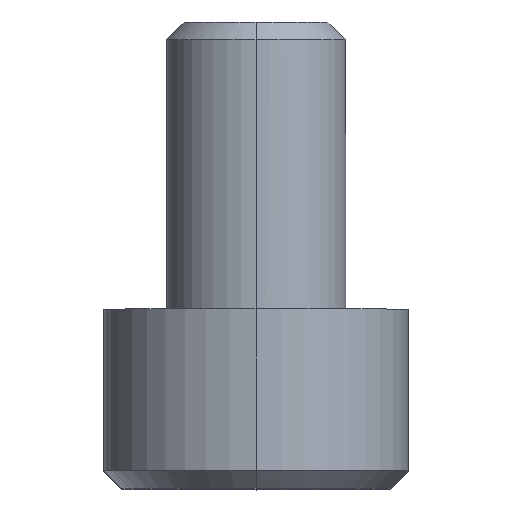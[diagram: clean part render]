
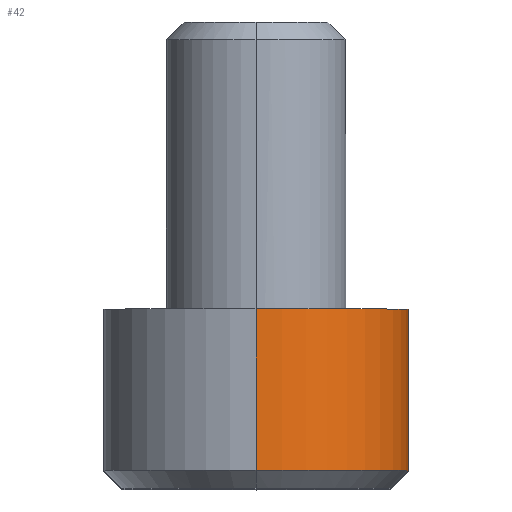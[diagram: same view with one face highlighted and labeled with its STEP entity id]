
A CAD part, top view. The second image highlights one B-rep face of the part: STEP entity #42.
In plain terms, the highlighted free-form (B-spline) face has degree [1, 2] with [2, 9] control points.
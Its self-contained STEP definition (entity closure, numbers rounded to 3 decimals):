
#42=ADVANCED_FACE('',(#92),#1480,.T.);
#92=FACE_OUTER_BOUND('',#142,.T.);
#142=EDGE_LOOP('',(#199,#200,#201,#202));
#199=ORIENTED_EDGE('',*,*,#1205,.F.);
#200=ORIENTED_EDGE('',*,*,#1207,.T.);
#201=ORIENTED_EDGE('',*,*,#1208,.T.);
#202=ORIENTED_EDGE('',*,*,#1209,.T.);
#413=PCURVE('',#1479,#629);
#415=PCURVE('',#1480,#631);
#416=PCURVE('',#1480,#632);
#417=PCURVE('',#1480,#633);
#418=PCURVE('',#1480,#634);
#500=PCURVE('',#1462,#716);
#504=PCURVE('',#1487,#720);
#506=PCURVE('',#1487,#722);
#629=DEFINITIONAL_REPRESENTATION('',(#846),#2838);
#631=DEFINITIONAL_REPRESENTATION('',(#849),#2838);
#632=DEFINITIONAL_REPRESENTATION('',(#851),#2838);
#633=DEFINITIONAL_REPRESENTATION('',(#852),#2838);
#634=DEFINITIONAL_REPRESENTATION('',(#854),#2838);
#716=DEFINITIONAL_REPRESENTATION('',(#1340),#2838);
#720=DEFINITIONAL_REPRESENTATION('',(#956),#2838);
#722=DEFINITIONAL_REPRESENTATION('',(#958),#2838);
#846=B_SPLINE_CURVE_WITH_KNOTS('',1,(#1826,#1827),.UNSPECIFIED.,.F.,.F.,
(2,2),(-13.352,0.),.UNSPECIFIED.);
#849=B_SPLINE_CURVE_WITH_KNOTS('',1,(#1832,#1833),.UNSPECIFIED.,.F.,.F.,
(2,2),(-13.352,0.),.UNSPECIFIED.);
#850=B_SPLINE_CURVE_WITH_KNOTS('',1,(#1834,#1835),.UNSPECIFIED.,.F.,.F.,
(2,2),(0.,4.5),.UNSPECIFIED.);
#851=B_SPLINE_CURVE_WITH_KNOTS('',1,(#1836,#1837),.UNSPECIFIED.,.F.,.F.,
(2,2),(0.,4.5),.UNSPECIFIED.);
#852=B_SPLINE_CURVE_WITH_KNOTS('',1,(#1843,#1844),.UNSPECIFIED.,.F.,.F.,
(2,2),(-13.352,0.),.UNSPECIFIED.);
#853=B_SPLINE_CURVE_WITH_KNOTS('',1,(#1845,#1846),.UNSPECIFIED.,.F.,.F.,
(2,2),(0.,4.5),.UNSPECIFIED.);
#854=B_SPLINE_CURVE_WITH_KNOTS('',1,(#1847,#1848),.UNSPECIFIED.,.F.,.F.,
(2,2),(0.,4.5),.UNSPECIFIED.);
#956=B_SPLINE_CURVE_WITH_KNOTS('',1,(#2164,#2165),.UNSPECIFIED.,.F.,.F.,
(2,2),(0.,4.5),.UNSPECIFIED.);
#958=B_SPLINE_CURVE_WITH_KNOTS('',1,(#2173,#2174),.UNSPECIFIED.,.F.,.F.,
(2,2),(0.,4.5),.UNSPECIFIED.);
#1097=SURFACE_CURVE('',#1312,(#413,#415),.PCURVE_S1.);
#1099=SURFACE_CURVE('',#850,(#416,#504),.PCURVE_S1.);
#1100=SURFACE_CURVE('',#1313,(#417,#500),.PCURVE_S1.);
#1101=SURFACE_CURVE('',#853,(#418,#506),.PCURVE_S1.);
#1205=EDGE_CURVE('',#1385,#1384,#1097,.T.);
#1207=EDGE_CURVE('',#1385,#1388,#1099,.T.);
#1208=EDGE_CURVE('',#1388,#1387,#1100,.T.);
#1209=EDGE_CURVE('',#1387,#1384,#1101,.T.);
#1312=(
BOUNDED_CURVE()
B_SPLINE_CURVE(2,(#1821,#1822,#1823,#1824,#1825),.UNSPECIFIED.,.F.,.F.)
B_SPLINE_CURVE_WITH_KNOTS((3,2,3),(-13.352,-6.676,0.),
 .UNSPECIFIED.)
CURVE()
GEOMETRIC_REPRESENTATION_ITEM()
RATIONAL_B_SPLINE_CURVE((1.,0.707,1.,0.707,1.))
REPRESENTATION_ITEM('')
);
#1313=(
BOUNDED_CURVE()
B_SPLINE_CURVE(2,(#1838,#1839,#1840,#1841,#1842),.UNSPECIFIED.,.F.,.F.)
B_SPLINE_CURVE_WITH_KNOTS((3,2,3),(-13.352,-6.676,0.),
 .UNSPECIFIED.)
CURVE()
GEOMETRIC_REPRESENTATION_ITEM()
RATIONAL_B_SPLINE_CURVE((1.,0.707,1.,0.707,1.))
REPRESENTATION_ITEM('')
);
#1340=(
BOUNDED_CURVE()
B_SPLINE_CURVE(2,(#2147,#2148,#2149,#2150,#2151),.UNSPECIFIED.,.F.,.F.)
B_SPLINE_CURVE_WITH_KNOTS((3,2,3),(-13.352,-6.676,0.),
 .UNSPECIFIED.)
CURVE()
GEOMETRIC_REPRESENTATION_ITEM()
RATIONAL_B_SPLINE_CURVE((1.,0.707,1.,0.707,1.))
REPRESENTATION_ITEM('')
);
#1384=VERTEX_POINT('',#1778);
#1385=VERTEX_POINT('',#1779);
#1387=VERTEX_POINT('',#1781);
#1388=VERTEX_POINT('',#1782);
#1462=PLANE('',#1532);
#1479=(
BOUNDED_SURFACE()
B_SPLINE_SURFACE(1,2,((#1582,#1583,#1584,#1585,#1586,#1587,#1588,#1589,#1590),
(#1591,#1592,#1593,#1594,#1595,#1596,#1597,#1598,#1599)),.UNSPECIFIED.,.F.,
 .F.,.F.)
B_SPLINE_SURFACE_WITH_KNOTS((2,2),(3,2,2,2,3),(0.,6.613),(0.,
1.571,3.142,4.712,6.283),
 .UNSPECIFIED.)
GEOMETRIC_REPRESENTATION_ITEM()
RATIONAL_B_SPLINE_SURFACE(((1.,0.707,1.,0.707,1.,
0.707,1.,0.707,1.),(1.,0.707,1.,0.707,
1.,0.707,1.,0.707,1.)))
REPRESENTATION_ITEM('')
SURFACE()
);
#1480=(
BOUNDED_SURFACE()
B_SPLINE_SURFACE(1,2,((#1600,#1601,#1602,#1603,#1604,#1605,#1606,#1607,#1608),
(#1609,#1610,#1611,#1612,#1613,#1614,#1615,#1616,#1617)),.UNSPECIFIED.,.F.,
 .F.,.F.)
B_SPLINE_SURFACE_WITH_KNOTS((2,2),(3,2,2,2,3),(0.,5.402),(0.,1.571,
3.142,4.712,6.283),.UNSPECIFIED.)
GEOMETRIC_REPRESENTATION_ITEM()
RATIONAL_B_SPLINE_SURFACE(((1.,0.707,1.,0.707,1.,
0.707,1.,0.707,1.),(1.,0.707,1.,0.707,
1.,0.707,1.,0.707,1.)))
REPRESENTATION_ITEM('')
SURFACE()
);
#1487=(
BOUNDED_SURFACE()
B_SPLINE_SURFACE(1,2,((#1740,#1741,#1742,#1743,#1744,#1745,#1746,#1747,#1748),
(#1749,#1750,#1751,#1752,#1753,#1754,#1755,#1756,#1757)),.UNSPECIFIED.,.F.,
 .F.,.F.)
B_SPLINE_SURFACE_WITH_KNOTS((2,2),(3,2,2,2,3),(0.,5.402),(0.,1.571,
3.142,4.712,6.283),.UNSPECIFIED.)
GEOMETRIC_REPRESENTATION_ITEM()
RATIONAL_B_SPLINE_SURFACE(((1.,0.707,1.,0.707,1.,
0.707,1.,0.707,1.),(1.,0.707,1.,0.707,
1.,0.707,1.,0.707,1.)))
REPRESENTATION_ITEM('')
SURFACE()
);
#1532=AXIS2_PLACEMENT_3D('',#1739,#1564,$);
#1564=DIRECTION('',(0.,-1.,0.));
#1582=CARTESIAN_POINT('',(686.,303.25,10.));
#1583=CARTESIAN_POINT('',(686.,303.25,10.));
#1584=CARTESIAN_POINT('',(686.,303.25,10.));
#1585=CARTESIAN_POINT('',(686.,303.25,10.));
#1586=CARTESIAN_POINT('',(686.,303.25,10.));
#1587=CARTESIAN_POINT('',(686.,303.25,10.));
#1588=CARTESIAN_POINT('',(686.,303.25,10.));
#1589=CARTESIAN_POINT('',(686.,303.25,10.));
#1590=CARTESIAN_POINT('',(686.,303.25,10.));
#1591=CARTESIAN_POINT('',(681.324,307.926,10.));
#1592=CARTESIAN_POINT('',(681.324,307.926,14.676));
#1593=CARTESIAN_POINT('',(686.,307.926,14.676));
#1594=CARTESIAN_POINT('',(690.676,307.926,14.676));
#1595=CARTESIAN_POINT('',(690.676,307.926,10.));
#1596=CARTESIAN_POINT('',(690.676,307.926,5.324));
#1597=CARTESIAN_POINT('',(686.,307.926,5.324));
#1598=CARTESIAN_POINT('',(681.324,307.926,5.324));
#1599=CARTESIAN_POINT('',(681.324,307.926,10.));
#1600=CARTESIAN_POINT('',(681.75,307.049,10.));
#1601=CARTESIAN_POINT('',(681.75,307.049,14.25));
#1602=CARTESIAN_POINT('',(686.,307.049,14.25));
#1603=CARTESIAN_POINT('',(690.25,307.049,14.25));
#1604=CARTESIAN_POINT('',(690.25,307.049,10.));
#1605=CARTESIAN_POINT('',(690.25,307.049,5.75));
#1606=CARTESIAN_POINT('',(686.,307.049,5.75));
#1607=CARTESIAN_POINT('',(681.75,307.049,5.75));
#1608=CARTESIAN_POINT('',(681.75,307.049,10.));
#1609=CARTESIAN_POINT('',(681.75,312.451,10.));
#1610=CARTESIAN_POINT('',(681.75,312.451,14.25));
#1611=CARTESIAN_POINT('',(686.,312.451,14.25));
#1612=CARTESIAN_POINT('',(690.25,312.451,14.25));
#1613=CARTESIAN_POINT('',(690.25,312.451,10.));
#1614=CARTESIAN_POINT('',(690.25,312.451,5.75));
#1615=CARTESIAN_POINT('',(686.,312.451,5.75));
#1616=CARTESIAN_POINT('',(681.75,312.451,5.75));
#1617=CARTESIAN_POINT('',(681.75,312.451,10.));
#1739=CARTESIAN_POINT('',(680.899,312.,4.899));
#1740=CARTESIAN_POINT('',(690.25,307.049,10.));
#1741=CARTESIAN_POINT('',(690.25,307.049,5.75));
#1742=CARTESIAN_POINT('',(686.,307.049,5.75));
#1743=CARTESIAN_POINT('',(681.75,307.049,5.75));
#1744=CARTESIAN_POINT('',(681.75,307.049,10.));
#1745=CARTESIAN_POINT('',(681.75,307.049,14.25));
#1746=CARTESIAN_POINT('',(686.,307.049,14.25));
#1747=CARTESIAN_POINT('',(690.25,307.049,14.25));
#1748=CARTESIAN_POINT('',(690.25,307.049,10.));
#1749=CARTESIAN_POINT('',(690.25,312.451,10.));
#1750=CARTESIAN_POINT('',(690.25,312.451,5.75));
#1751=CARTESIAN_POINT('',(686.,312.451,5.75));
#1752=CARTESIAN_POINT('',(681.75,312.451,5.75));
#1753=CARTESIAN_POINT('',(681.75,312.451,10.));
#1754=CARTESIAN_POINT('',(681.75,312.451,14.25));
#1755=CARTESIAN_POINT('',(686.,312.451,14.25));
#1756=CARTESIAN_POINT('',(690.25,312.451,14.25));
#1757=CARTESIAN_POINT('',(690.25,312.451,10.));
#1778=CARTESIAN_POINT('',(686.,307.5,5.75));
#1779=CARTESIAN_POINT('',(686.,307.5,14.25));
#1781=CARTESIAN_POINT('',(686.,312.,5.75));
#1782=CARTESIAN_POINT('',(686.,312.,14.25));
#1821=CARTESIAN_POINT('',(686.,307.5,14.25));
#1822=CARTESIAN_POINT('',(690.25,307.5,14.25));
#1823=CARTESIAN_POINT('',(690.25,307.5,10.));
#1824=CARTESIAN_POINT('',(690.25,307.5,5.75));
#1825=CARTESIAN_POINT('',(686.,307.5,5.75));
#1826=CARTESIAN_POINT('',(6.01,1.571));
#1827=CARTESIAN_POINT('',(6.01,4.712));
#1832=CARTESIAN_POINT('',(0.451,1.571));
#1833=CARTESIAN_POINT('',(0.451,4.712));
#1834=CARTESIAN_POINT('',(686.,307.5,14.25));
#1835=CARTESIAN_POINT('',(686.,312.,14.25));
#1836=CARTESIAN_POINT('',(0.451,1.571));
#1837=CARTESIAN_POINT('',(4.951,1.571));
#1838=CARTESIAN_POINT('',(686.,312.,14.25));
#1839=CARTESIAN_POINT('',(690.25,312.,14.25));
#1840=CARTESIAN_POINT('',(690.25,312.,10.));
#1841=CARTESIAN_POINT('',(690.25,312.,5.75));
#1842=CARTESIAN_POINT('',(686.,312.,5.75));
#1843=CARTESIAN_POINT('',(4.951,1.571));
#1844=CARTESIAN_POINT('',(4.951,4.712));
#1845=CARTESIAN_POINT('',(686.,312.,5.75));
#1846=CARTESIAN_POINT('',(686.,307.5,5.75));
#1847=CARTESIAN_POINT('',(4.951,4.712));
#1848=CARTESIAN_POINT('',(0.451,4.712));
#2147=CARTESIAN_POINT('',(0.,7.625));
#2148=CARTESIAN_POINT('',(4.25,7.625));
#2149=CARTESIAN_POINT('',(4.25,3.375));
#2150=CARTESIAN_POINT('',(4.25,-0.875));
#2151=CARTESIAN_POINT('',(0.,-0.875));
#2164=CARTESIAN_POINT('',(0.451,4.712));
#2165=CARTESIAN_POINT('',(4.951,4.712));
#2173=CARTESIAN_POINT('',(4.951,1.571));
#2174=CARTESIAN_POINT('',(0.451,1.571));
#2838=(
GEOMETRIC_REPRESENTATION_CONTEXT(2)
PARAMETRIC_REPRESENTATION_CONTEXT()
REPRESENTATION_CONTEXT('pspace','')
);
